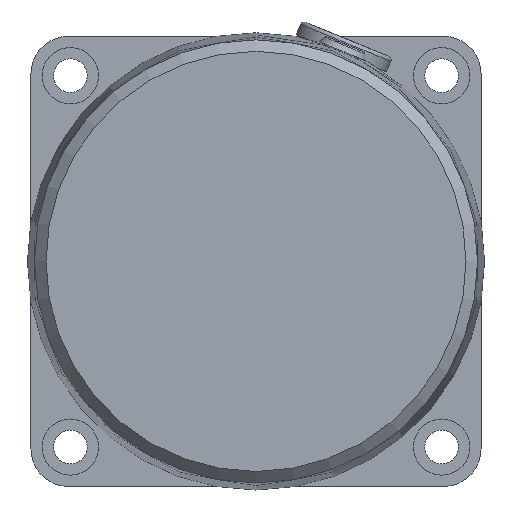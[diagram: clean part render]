
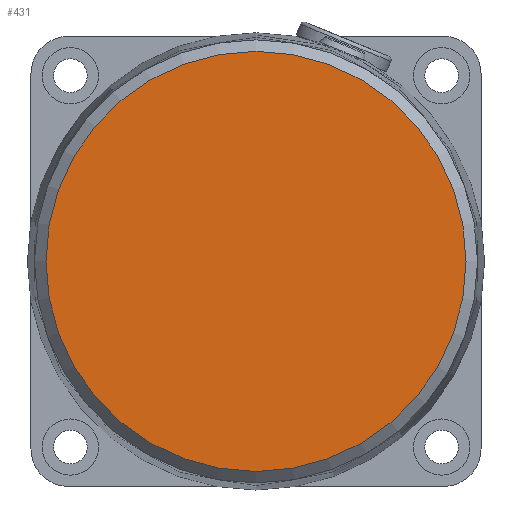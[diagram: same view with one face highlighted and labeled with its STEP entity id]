
A CAD part, left-side view. The second image highlights one B-rep face of the part: STEP entity #431.
In plain terms, the highlighted planar face has unit normal (-1, 0, 0).
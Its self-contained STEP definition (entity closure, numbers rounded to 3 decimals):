
#415=CARTESIAN_POINT('',(-36.5,0.,0.));
#416=DIRECTION('',(1.0,0.0,0.0));
#417=DIRECTION('',(0.0,0.0,-1.0));
#418=AXIS2_PLACEMENT_3D('',#415,#416,#417);
#419=PLANE('',#418);
#420=CARTESIAN_POINT('',(-36.5,0.,28.));
#421=VERTEX_POINT('',#420);
#422=CARTESIAN_POINT('',(-36.5,0.,0.));
#423=DIRECTION('',(1.0,0.0,0.0));
#424=DIRECTION('',(0.0,0.0,-1.0));
#425=AXIS2_PLACEMENT_3D('',#422,#423,#424);
#426=CIRCLE('',#425,28.);
#427=EDGE_CURVE('',#421,#421,#426,.T.);
#428=ORIENTED_EDGE('',*,*,#427,.F.);
#429=EDGE_LOOP('',(#428));
#430=FACE_OUTER_BOUND('',#429,.T.);
#431=ADVANCED_FACE('',(#430),#419,.F.);
